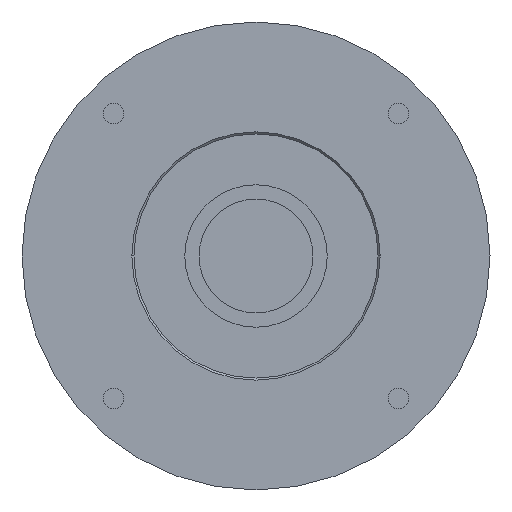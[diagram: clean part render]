
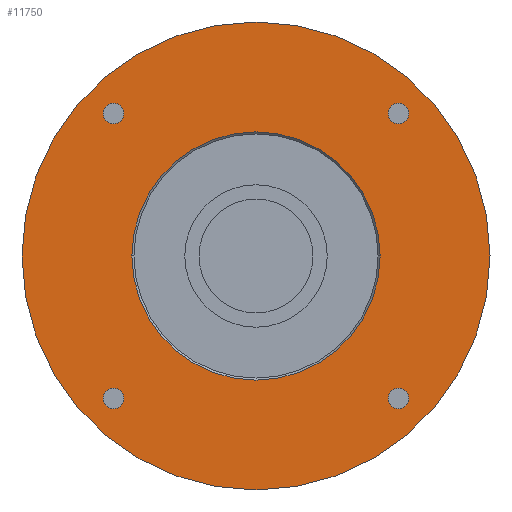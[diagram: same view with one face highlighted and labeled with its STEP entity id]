
A CAD part, left-side view. The second image highlights one B-rep face of the part: STEP entity #11750.
In plain terms, the highlighted planar face has unit normal (-1, 0, 0) as drawn and (0, 0, -1) by its records, which use the part's own axes.
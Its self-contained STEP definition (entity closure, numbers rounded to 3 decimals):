
#8590=CARTESIAN_POINT('',(35.002,32.502,-65.6));
#8600=VERTEX_POINT('',#8590);
#8650=CARTESIAN_POINT('',(35.002,35.002,-65.6));
#8660=DIRECTION('',(0.,0.,-1.));
#8670=DIRECTION('',(1.,0.,0.));
#8680=AXIS2_PLACEMENT_3D('',#8650,#8660,#8670);
#8690=CIRCLE('',#8680,2.5);
#8700=CARTESIAN_POINT('',(37.502,35.002,-65.6));
#8710=VERTEX_POINT('',#8700);
#8720=EDGE_CURVE('',#8710,#8600,#8690,.T.);
#8740=CARTESIAN_POINT('',(35.002,37.502,-65.6));
#8750=VERTEX_POINT('',#8740);
#8760=EDGE_CURVE('',#8750,#8710,#8690,.T.);
#10600=CARTESIAN_POINT('',(0.,-57.5,-65.6));
#10610=VERTEX_POINT('',#10600);
#10640=CARTESIAN_POINT('',(0.,0.,
-65.6));
#10650=DIRECTION('',(0.,0.,-1.));
#10660=DIRECTION('',(0.,-1.,0.));
#10670=AXIS2_PLACEMENT_3D('',#10640,#10650,#10660);
#10680=CIRCLE('',#10670,57.5);
#10690=CARTESIAN_POINT('',(0.,57.5,-65.6));
#10700=VERTEX_POINT('',#10690);
#10710=EDGE_CURVE('',#10610,#10700,#10680,.T.);
#10830=CARTESIAN_POINT('',(0.,0.,
-65.6));
#10840=DIRECTION('',(0.,0.,-1.));
#10850=DIRECTION('',(0.,1.,0.));
#10860=AXIS2_PLACEMENT_3D('',#10830,#10840,#10850);
#10870=PLANE('',#10860);
#10880=CARTESIAN_POINT('',(0.,0.,
-65.6));
#10890=DIRECTION('',(0.,0.,-1.));
#10900=DIRECTION('',(0.,1.,0.));
#10910=AXIS2_PLACEMENT_3D('',#10880,#10890,#10900);
#10920=CIRCLE('',#10910,30.5);
#10930=CARTESIAN_POINT('',(0.,30.5,-65.6));
#10940=VERTEX_POINT('',#10930);
#10950=CARTESIAN_POINT('',(30.5,0.,-65.6));
#10960=VERTEX_POINT('',#10950);
#10970=EDGE_CURVE('',#10940,#10960,#10920,.T.);
#10980=ORIENTED_EDGE('',*,*,#10970,.F.);
#10990=CARTESIAN_POINT('',(-30.5,0.,-65.6));
#11000=VERTEX_POINT('',#10990);
#11010=EDGE_CURVE('',#10960,#11000,#10920,.T.);
#11020=ORIENTED_EDGE('',*,*,#11010,.F.);
#11030=EDGE_CURVE('',#11000,#10940,#10920,.T.);
#11040=ORIENTED_EDGE('',*,*,#11030,.F.);
#11050=EDGE_LOOP('',(#11040,#11020,#10980));
#11060=FACE_BOUND('',#11050,.T.);
#11070=CARTESIAN_POINT('',(-35.002,-35.002,-65.6));
#11080=DIRECTION('',(0.,0.,-1.));
#11090=DIRECTION('',(1.,0.,0.));
#11100=AXIS2_PLACEMENT_3D('',#11070,#11080,#11090);
#11110=CIRCLE('',#11100,2.5);
#11120=CARTESIAN_POINT('',(-32.502,-35.002,-65.6));
#11130=VERTEX_POINT('',#11120);
#11140=CARTESIAN_POINT('',(-35.002,-37.502,-65.6));
#11150=VERTEX_POINT('',#11140);
#11160=EDGE_CURVE('',#11130,#11150,#11110,.T.);
#11170=ORIENTED_EDGE('',*,*,#11160,.F.);
#11180=CARTESIAN_POINT('',(-35.002,-32.502,-65.6));
#11190=VERTEX_POINT('',#11180);
#11200=EDGE_CURVE('',#11150,#11190,#11110,.T.);
#11210=ORIENTED_EDGE('',*,*,#11200,.F.);
#11220=EDGE_CURVE('',#11190,#11130,#11110,.T.);
#11230=ORIENTED_EDGE('',*,*,#11220,.F.);
#11240=EDGE_LOOP('',(#11230,#11210,#11170));
#11250=FACE_BOUND('',#11240,.T.);
#11260=CARTESIAN_POINT('',(-35.002,35.002,-65.6));
#11270=DIRECTION('',(0.,0.,-1.));
#11280=DIRECTION('',(1.,0.,0.));
#11290=AXIS2_PLACEMENT_3D('',#11260,#11270,#11280);
#11300=CIRCLE('',#11290,2.5);
#11310=CARTESIAN_POINT('',(-32.502,35.002,-65.6));
#11320=VERTEX_POINT('',#11310);
#11330=CARTESIAN_POINT('',(-35.002,32.502,-65.6));
#11340=VERTEX_POINT('',#11330);
#11350=EDGE_CURVE('',#11320,#11340,#11300,.T.);
#11360=ORIENTED_EDGE('',*,*,#11350,.F.);
#11370=CARTESIAN_POINT('',(-35.002,37.502,-65.6));
#11380=VERTEX_POINT('',#11370);
#11390=EDGE_CURVE('',#11340,#11380,#11300,.T.);
#11400=ORIENTED_EDGE('',*,*,#11390,.F.);
#11410=EDGE_CURVE('',#11380,#11320,#11300,.T.);
#11420=ORIENTED_EDGE('',*,*,#11410,.F.);
#11430=EDGE_LOOP('',(#11420,#11400,#11360));
#11440=FACE_BOUND('',#11430,.T.);
#11450=ORIENTED_EDGE('',*,*,#8720,.F.);
#11460=EDGE_CURVE('',#8600,#8750,#8690,.T.);
#11470=ORIENTED_EDGE('',*,*,#11460,.F.);
#11480=ORIENTED_EDGE('',*,*,#8760,.F.);
#11490=EDGE_LOOP('',(#11480,#11470,#11450));
#11500=FACE_BOUND('',#11490,.T.);
#11510=CARTESIAN_POINT('',(35.002,-35.002,-65.6));
#11520=DIRECTION('',(0.,0.,-1.));
#11530=DIRECTION('',(1.,0.,0.));
#11540=AXIS2_PLACEMENT_3D('',#11510,#11520,#11530);
#11550=CIRCLE('',#11540,2.5);
#11560=CARTESIAN_POINT('',(37.502,-35.002,-65.6));
#11570=VERTEX_POINT('',#11560);
#11580=CARTESIAN_POINT('',(35.002,-37.502,-65.6));
#11590=VERTEX_POINT('',#11580);
#11600=EDGE_CURVE('',#11570,#11590,#11550,.T.);
#11610=ORIENTED_EDGE('',*,*,#11600,.F.);
#11620=CARTESIAN_POINT('',(35.002,-32.502,-65.6));
#11630=VERTEX_POINT('',#11620);
#11640=EDGE_CURVE('',#11590,#11630,#11550,.T.);
#11650=ORIENTED_EDGE('',*,*,#11640,.F.);
#11660=EDGE_CURVE('',#11630,#11570,#11550,.T.);
#11670=ORIENTED_EDGE('',*,*,#11660,.F.);
#11680=EDGE_LOOP('',(#11670,#11650,#11610));
#11690=FACE_BOUND('',#11680,.T.);
#11700=ORIENTED_EDGE('',*,*,#10710,.T.);
#11710=EDGE_CURVE('',#10700,#10610,#10680,.T.);
#11720=ORIENTED_EDGE('',*,*,#11710,.T.);
#11730=EDGE_LOOP('',(#11720,#11700));
#11740=FACE_OUTER_BOUND('',#11730,.T.);
#11750=ADVANCED_FACE('',(#11060,#11250,#11440,#11500,#11690,#11740),
#10870,.T.);
